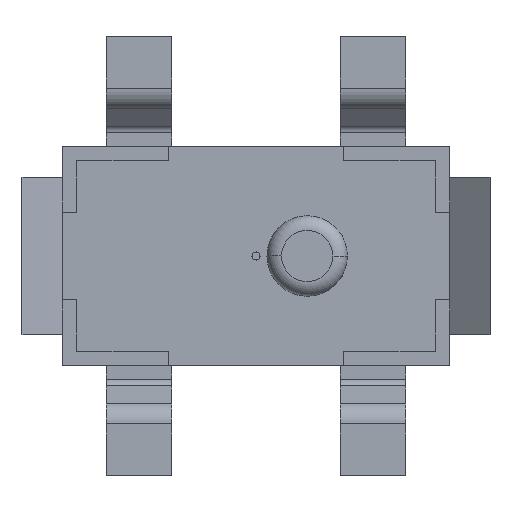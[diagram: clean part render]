
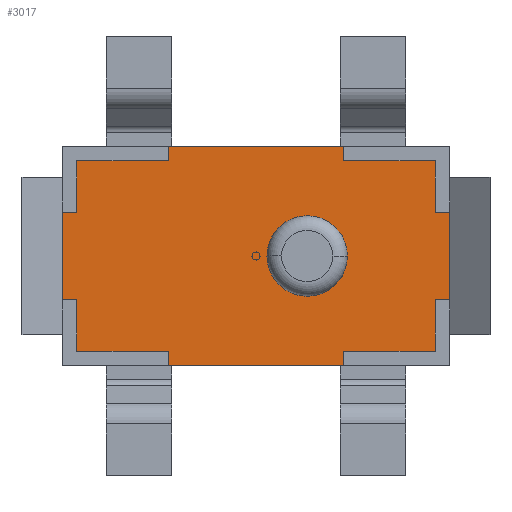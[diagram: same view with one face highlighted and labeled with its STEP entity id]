
A CAD part, front view. The second image highlights one B-rep face of the part: STEP entity #3017.
In plain terms, the highlighted planar face has unit normal (0, -1, 0).
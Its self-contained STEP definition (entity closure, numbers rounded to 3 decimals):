
#216=DIRECTION('',(1.,0.,0.));
#217=VECTOR('',#216,2.4);
#218=CARTESIAN_POINT('',(-1.2,0.1,1.5));
#219=LINE('',#218,#217);
#405=DIRECTION('',(-1.,0.,0.));
#406=VECTOR('',#405,2.4);
#407=CARTESIAN_POINT('',(1.2,0.1,-1.5));
#408=LINE('',#407,#406);
#629=DIRECTION('',(0.,0.,1.));
#630=VECTOR('',#629,1.2);
#631=CARTESIAN_POINT('',(-2.65,0.1,-0.6));
#632=LINE('',#631,#630);
#713=DIRECTION('',(0.,0.,-1.));
#714=VECTOR('',#713,0.2);
#715=CARTESIAN_POINT('',(-1.2,0.1,-1.3));
#716=LINE('',#715,#714);
#720=DIRECTION('',(1.,0.,0.));
#721=VECTOR('',#720,1.25);
#722=CARTESIAN_POINT('',(-2.45,0.1,-1.3));
#723=LINE('',#722,#721);
#727=DIRECTION('',(0.,0.,-1.));
#728=VECTOR('',#727,0.7);
#729=CARTESIAN_POINT('',(-2.45,0.1,-0.6));
#730=LINE('',#729,#728);
#734=DIRECTION('',(1.,0.,0.));
#735=VECTOR('',#734,0.2);
#736=CARTESIAN_POINT('',(-2.65,0.1,-0.6));
#737=LINE('',#736,#735);
#741=DIRECTION('',(-1.,0.,0.));
#742=VECTOR('',#741,0.2);
#743=CARTESIAN_POINT('',(-2.45,0.1,0.6));
#744=LINE('',#743,#742);
#748=DIRECTION('',(0.,0.,-1.));
#749=VECTOR('',#748,0.7);
#750=CARTESIAN_POINT('',(-2.45,0.1,1.3));
#751=LINE('',#750,#749);
#755=DIRECTION('',(-1.,0.,0.));
#756=VECTOR('',#755,1.25);
#757=CARTESIAN_POINT('',(-1.2,0.1,1.3));
#758=LINE('',#757,#756);
#762=DIRECTION('',(0.,0.,-1.));
#763=VECTOR('',#762,0.2);
#764=CARTESIAN_POINT('',(-1.2,0.1,1.5));
#765=LINE('',#764,#763);
#769=DIRECTION('',(0.,0.,1.));
#770=VECTOR('',#769,0.2);
#771=CARTESIAN_POINT('',(1.2,0.1,1.3));
#772=LINE('',#771,#770);
#776=DIRECTION('',(-1.,0.,0.));
#777=VECTOR('',#776,1.25);
#778=CARTESIAN_POINT('',(2.45,0.1,1.3));
#779=LINE('',#778,#777);
#783=DIRECTION('',(0.,0.,1.));
#784=VECTOR('',#783,0.7);
#785=CARTESIAN_POINT('',(2.45,0.1,0.6));
#786=LINE('',#785,#784);
#790=DIRECTION('',(-1.,0.,0.));
#791=VECTOR('',#790,0.2);
#792=CARTESIAN_POINT('',(2.65,0.1,0.6));
#793=LINE('',#792,#791);
#797=DIRECTION('',(1.,0.,0.));
#798=VECTOR('',#797,0.2);
#799=CARTESIAN_POINT('',(2.45,0.1,-0.6));
#800=LINE('',#799,#798);
#804=DIRECTION('',(0.,0.,1.));
#805=VECTOR('',#804,0.7);
#806=CARTESIAN_POINT('',(2.45,0.1,-1.3));
#807=LINE('',#806,#805);
#811=DIRECTION('',(1.,0.,0.));
#812=VECTOR('',#811,1.25);
#813=CARTESIAN_POINT('',(1.2,0.1,-1.3));
#814=LINE('',#813,#812);
#818=DIRECTION('',(0.,0.,1.));
#819=VECTOR('',#818,0.2);
#820=CARTESIAN_POINT('',(1.2,0.1,-1.5));
#821=LINE('',#820,#819);
#825=CARTESIAN_POINT('',(0.7,0.1,0.));
#826=DIRECTION('',(0.,-1.,0.));
#827=DIRECTION('',(1.,0.,0.));
#828=AXIS2_PLACEMENT_3D('',#825,#826,#827);
#833=CARTESIAN_POINT('',(0.7,0.1,0.));
#834=DIRECTION('',(0.,-1.,0.));
#835=DIRECTION('',(-1.,0.,0.));
#836=AXIS2_PLACEMENT_3D('',#833,#834,#835);
#904=DIRECTION('',(0.,0.,-1.));
#905=VECTOR('',#904,1.2);
#906=CARTESIAN_POINT('',(2.65,0.1,0.6));
#907=LINE('',#906,#905);
#2171=CARTESIAN_POINT('',(-1.2,0.1,1.3));
#2172=CARTESIAN_POINT('',(-2.45,0.1,1.3));
#2173=VERTEX_POINT('',#2171);
#2174=VERTEX_POINT('',#2172);
#2175=CARTESIAN_POINT('',(-2.45,0.1,0.6));
#2176=VERTEX_POINT('',#2175);
#2177=CARTESIAN_POINT('',(-2.45,0.1,-0.6));
#2178=CARTESIAN_POINT('',(-2.45,0.1,-1.3));
#2179=VERTEX_POINT('',#2177);
#2180=VERTEX_POINT('',#2178);
#2181=CARTESIAN_POINT('',(-1.2,0.1,-1.3));
#2182=VERTEX_POINT('',#2181);
#2183=CARTESIAN_POINT('',(1.2,0.1,-1.3));
#2184=CARTESIAN_POINT('',(2.45,0.1,-1.3));
#2185=VERTEX_POINT('',#2183);
#2186=VERTEX_POINT('',#2184);
#2187=CARTESIAN_POINT('',(2.45,0.1,-0.6));
#2188=VERTEX_POINT('',#2187);
#2189=CARTESIAN_POINT('',(2.45,0.1,0.6));
#2190=CARTESIAN_POINT('',(2.45,0.1,1.3));
#2191=VERTEX_POINT('',#2189);
#2192=VERTEX_POINT('',#2190);
#2193=CARTESIAN_POINT('',(1.2,0.1,1.3));
#2194=VERTEX_POINT('',#2193);
#2235=CARTESIAN_POINT('',(1.2,0.1,-1.5));
#2236=CARTESIAN_POINT('',(-1.2,0.1,-1.5));
#2237=VERTEX_POINT('',#2235);
#2238=VERTEX_POINT('',#2236);
#2239=CARTESIAN_POINT('',(-2.65,0.1,-0.6));
#2240=CARTESIAN_POINT('',(-2.65,0.1,0.6));
#2241=VERTEX_POINT('',#2239);
#2242=VERTEX_POINT('',#2240);
#2243=CARTESIAN_POINT('',(-1.2,0.1,1.5));
#2244=CARTESIAN_POINT('',(1.2,0.1,1.5));
#2245=VERTEX_POINT('',#2243);
#2246=VERTEX_POINT('',#2244);
#2247=CARTESIAN_POINT('',(2.65,0.1,0.6));
#2248=CARTESIAN_POINT('',(2.65,0.1,-0.6));
#2249=VERTEX_POINT('',#2247);
#2250=VERTEX_POINT('',#2248);
#2347=CARTESIAN_POINT('',(1.25,0.1,0.));
#2348=CARTESIAN_POINT('',(0.15,0.1,0.));
#2349=VERTEX_POINT('',#2347);
#2350=VERTEX_POINT('',#2348);
#2971=CARTESIAN_POINT('',(0.,0.1,0.));
#2972=DIRECTION('',(0.,-1.,0.));
#2973=DIRECTION('',(1.,0.,0.));
#2974=AXIS2_PLACEMENT_3D('',#2971,#2972,#2973);
#2975=PLANE('',#2974);
#2976=ORIENTED_EDGE('',*,*,#2751,.T.);
#2978=ORIENTED_EDGE('',*,*,#2977,.F.);
#2980=ORIENTED_EDGE('',*,*,#2979,.F.);
#2982=ORIENTED_EDGE('',*,*,#2981,.F.);
#2984=ORIENTED_EDGE('',*,*,#2983,.F.);
#2985=ORIENTED_EDGE('',*,*,#2884,.T.);
#2986=ORIENTED_EDGE('',*,*,#2938,.F.);
#2987=ORIENTED_EDGE('',*,*,#2952,.F.);
#2988=ORIENTED_EDGE('',*,*,#2965,.F.);
#2989=ORIENTED_EDGE('',*,*,#2639,.F.);
#2990=ORIENTED_EDGE('',*,*,#2662,.T.);
#2992=ORIENTED_EDGE('',*,*,#2991,.F.);
#2994=ORIENTED_EDGE('',*,*,#2993,.F.);
#2996=ORIENTED_EDGE('',*,*,#2995,.F.);
#2998=ORIENTED_EDGE('',*,*,#2997,.F.);
#3000=ORIENTED_EDGE('',*,*,#2999,.T.);
#3002=ORIENTED_EDGE('',*,*,#3001,.F.);
#3004=ORIENTED_EDGE('',*,*,#3003,.F.);
#3006=ORIENTED_EDGE('',*,*,#3005,.F.);
#3008=ORIENTED_EDGE('',*,*,#3007,.F.);
#3009=EDGE_LOOP('',(#2976,#2978,#2980,#2982,#2984,#2985,#2986,#2987,#2988,#2989,
#2990,#2992,#2994,#2996,#2998,#3000,#3002,#3004,#3006,#3008));
#3010=FACE_OUTER_BOUND('',#3009,.F.);
#3012=ORIENTED_EDGE('',*,*,#3011,.T.);
#3014=ORIENTED_EDGE('',*,*,#3013,.T.);
#3015=EDGE_LOOP('',(#3012,#3014));
#3016=FACE_BOUND('',#3015,.F.);
#829=CIRCLE('',#828,0.55);
#837=CIRCLE('',#836,0.55);
#2639=EDGE_CURVE('',#2245,#2173,#765,.T.);
#2662=EDGE_CURVE('',#2245,#2246,#219,.T.);
#2751=EDGE_CURVE('',#2237,#2238,#408,.T.);
#2884=EDGE_CURVE('',#2241,#2242,#632,.T.);
#2938=EDGE_CURVE('',#2176,#2242,#744,.T.);
#2952=EDGE_CURVE('',#2174,#2176,#751,.T.);
#2965=EDGE_CURVE('',#2173,#2174,#758,.T.);
#2977=EDGE_CURVE('',#2182,#2238,#716,.T.);
#2979=EDGE_CURVE('',#2180,#2182,#723,.T.);
#2981=EDGE_CURVE('',#2179,#2180,#730,.T.);
#2983=EDGE_CURVE('',#2241,#2179,#737,.T.);
#2991=EDGE_CURVE('',#2194,#2246,#772,.T.);
#2993=EDGE_CURVE('',#2192,#2194,#779,.T.);
#2995=EDGE_CURVE('',#2191,#2192,#786,.T.);
#2997=EDGE_CURVE('',#2249,#2191,#793,.T.);
#2999=EDGE_CURVE('',#2249,#2250,#907,.T.);
#3001=EDGE_CURVE('',#2188,#2250,#800,.T.);
#3003=EDGE_CURVE('',#2186,#2188,#807,.T.);
#3005=EDGE_CURVE('',#2185,#2186,#814,.T.);
#3007=EDGE_CURVE('',#2237,#2185,#821,.T.);
#3011=EDGE_CURVE('',#2349,#2350,#829,.T.);
#3013=EDGE_CURVE('',#2350,#2349,#837,.T.);
#3017=ADVANCED_FACE('',(#3010,#3016),#2975,.T.);
